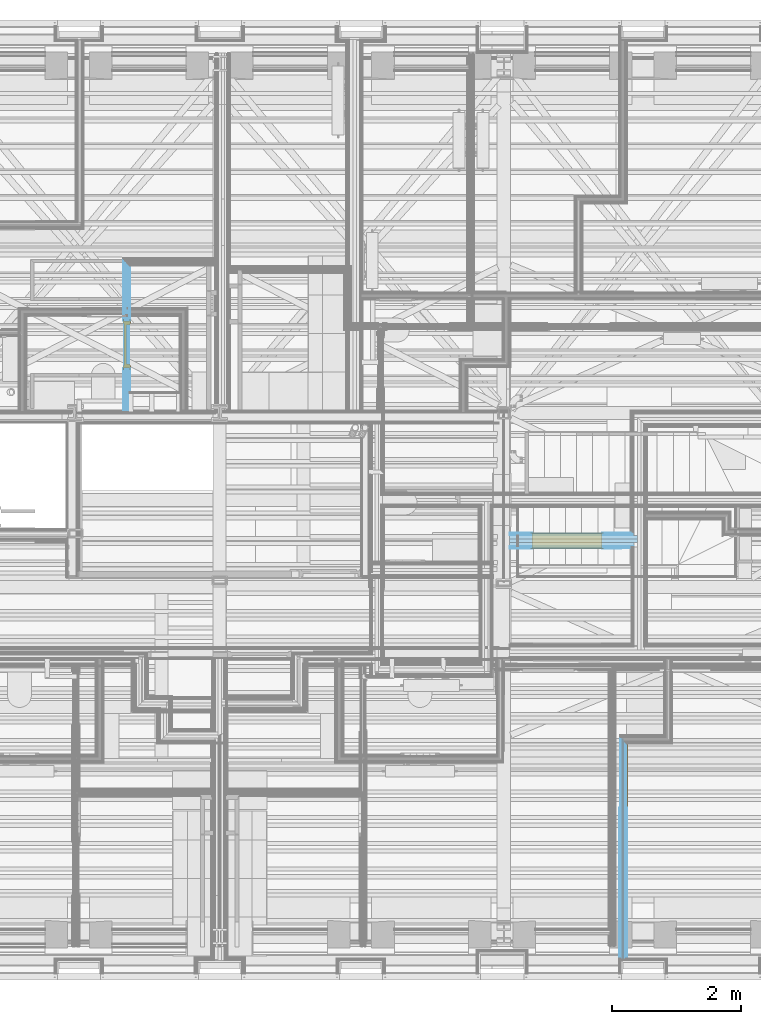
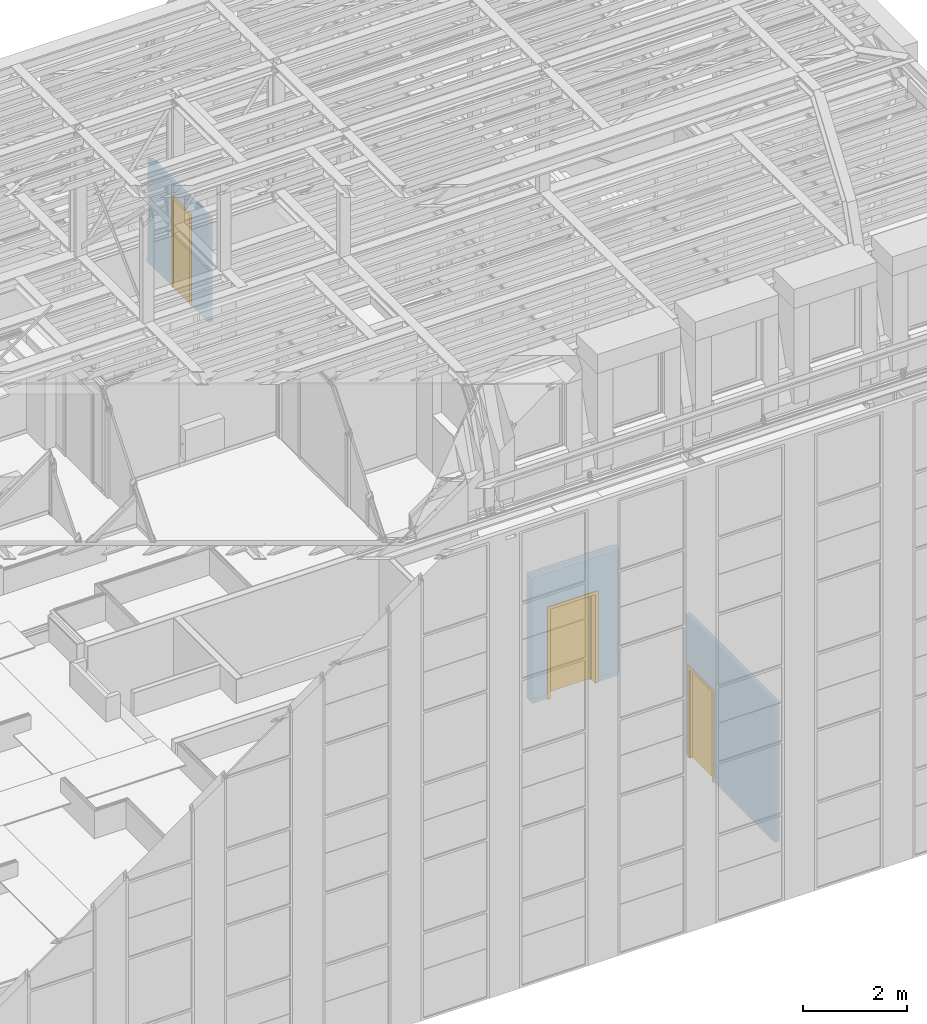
# One storey, part 104 of 183: 3 doors, 4 openings, 3 elements without a shape of their own, plus 23 elements that do not belong to this part.
"""IFC2X3 building model written with IfcOpenShell, lengths in metres."""

from ifc_helpers import new_model, entity, si_unit, converted_unit, derived_unit, money_unit, direction, frame, frame_2d, origin_with_axes, place, context, subcontext, project, spatial, polyline, rectangle, outline, extrude, faceted_brep, material, type_object, element, fill, aggregate, save


model = new_model("IFC2X3")

# Units and contexts
model_context = context("Model", 3, precision=1e-05, world=origin_with_axes(), true_north=direction((0.0, 1.0)))
body_context = subcontext(model_context, "Body", "Model", "MODEL_VIEW", scale=1.0)
ifc_project = project(units=[si_unit("LENGTHUNIT", "METRE"), si_unit("AREAUNIT", "SQUARE_METRE"), si_unit("VOLUMEUNIT", "CUBIC_METRE"), si_unit("ABSORBEDDOSEUNIT", "GRAY"), si_unit("AMOUNTOFSUBSTANCEUNIT", "MOLE"), si_unit("DOSEEQUIVALENTUNIT", "SIEVERT"), si_unit("ELECTRICCAPACITANCEUNIT", "FARAD"), si_unit("ELECTRICCHARGEUNIT", "COULOMB"), si_unit("ELECTRICCONDUCTANCEUNIT", "SIEMENS"), si_unit("ELECTRICCURRENTUNIT", "AMPERE"), si_unit("ELECTRICRESISTANCEUNIT", "OHM"), si_unit("ELECTRICVOLTAGEUNIT", "VOLT"), si_unit("ENERGYUNIT", "JOULE"), si_unit("FORCEUNIT", "NEWTON"), si_unit("FREQUENCYUNIT", "HERTZ"), si_unit("ILLUMINANCEUNIT", "LUX"), si_unit("INDUCTANCEUNIT", "HENRY"), si_unit("LUMINOUSFLUXUNIT", "LUMEN"), si_unit("LUMINOUSINTENSITYUNIT", "CANDELA"), si_unit("MAGNETICFLUXDENSITYUNIT", "TESLA"), si_unit("MAGNETICFLUXUNIT", "WEBER"), si_unit("MASSUNIT", "GRAM"), converted_unit("PLANEANGLEUNIT", "degree", entity("IfcReal", 0.0174532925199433), si_unit("PLANEANGLEUNIT", "RADIAN"), dimensions=[0, 0, 0, 0, 0, 0, 0]), si_unit("POWERUNIT", "WATT"), si_unit("PRESSUREUNIT", "PASCAL"), si_unit("RADIOACTIVITYUNIT", "BECQUEREL"), si_unit("SOLIDANGLEUNIT", "STERADIAN"), si_unit("THERMODYNAMICTEMPERATUREUNIT", "KELVIN"), si_unit("TIMEUNIT", "SECOND"), derived_unit("ACCELERATIONUNIT", [(si_unit("LENGTHUNIT", "METRE"), 1), (si_unit("TIMEUNIT", "SECOND"), -2)]), derived_unit("ANGULARVELOCITYUNIT", [(converted_unit("PLANEANGLEUNIT", "degree", entity("IfcReal", 0.0174532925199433), si_unit("PLANEANGLEUNIT", "RADIAN"), dimensions=[0, 0, 0, 0, 0, 0, 0]), 1), (si_unit("TIMEUNIT", "SECOND"), -1)]), derived_unit("CURVATUREUNIT", [(converted_unit("PLANEANGLEUNIT", "degree", entity("IfcReal", 0.0174532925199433), si_unit("PLANEANGLEUNIT", "RADIAN"), dimensions=[0, 0, 0, 0, 0, 0, 0]), 1), (si_unit("LENGTHUNIT", "METRE"), -1)]), derived_unit("DYNAMICVISCOSITYUNIT", [(si_unit("PRESSUREUNIT", "PASCAL"), 1), (si_unit("TIMEUNIT", "SECOND"), 1)]), derived_unit("HEATFLUXDENSITYUNIT", [(si_unit("POWERUNIT", "WATT"), 1), (si_unit("LENGTHUNIT", "METRE"), -2)]), derived_unit("HEATINGVALUEUNIT", [(si_unit("ENERGYUNIT", "JOULE"), 1), (si_unit("MASSUNIT", "GRAM"), -1)]), derived_unit("INTEGERCOUNTRATEUNIT", [(si_unit("TIMEUNIT", "SECOND"), -1)]), derived_unit("IONCONCENTRATIONUNIT", [(si_unit("MASSUNIT", "GRAM"), 1), (si_unit("VOLUMEUNIT", "CUBIC_METRE"), -1)]), derived_unit("ISOTHERMALMOISTURECAPACITYUNIT", [(si_unit("VOLUMEUNIT", "CUBIC_METRE"), 1), (si_unit("MASSUNIT", "GRAM"), -1)]), derived_unit("KINEMATICVISCOSITYUNIT", [(si_unit("AREAUNIT", "SQUARE_METRE"), 1), (si_unit("TIMEUNIT", "SECOND"), -1)]), derived_unit("LINEARFORCEUNIT", [(si_unit("FORCEUNIT", "NEWTON"), 1), (si_unit("LENGTHUNIT", "METRE"), -1)]), derived_unit("LINEARMOMENTUNIT", [(si_unit("FORCEUNIT", "NEWTON"), 1), (si_unit("LENGTHUNIT", "METRE"), -1)]), derived_unit("LINEARSTIFFNESSUNIT", [(si_unit("FORCEUNIT", "NEWTON"), 1), (si_unit("LENGTHUNIT", "METRE"), -1)]), derived_unit("LINEARVELOCITYUNIT", [(si_unit("LENGTHUNIT", "METRE"), 1), (si_unit("TIMEUNIT", "SECOND"), -1)]), derived_unit("LUMINOUSINTENSITYDISTRIBUTIONUNIT", [(si_unit("LUMINOUSINTENSITYUNIT", "CANDELA"), 1), (si_unit("LUMINOUSFLUXUNIT", "LUMEN"), -1)]), derived_unit("MASSDENSITYUNIT", [(si_unit("MASSUNIT", "GRAM"), 1), (si_unit("VOLUMEUNIT", "CUBIC_METRE"), -1)]), derived_unit("MASSFLOWRATEUNIT", [(si_unit("MASSUNIT", "GRAM"), 1), (si_unit("TIMEUNIT", "SECOND"), -1)]), derived_unit("MASSPERLENGTHUNIT", [(si_unit("MASSUNIT", "GRAM"), 1), (si_unit("LENGTHUNIT", "METRE"), -1)]), derived_unit("MODULUSOFELASTICITYUNIT", [(si_unit("FORCEUNIT", "NEWTON"), 1), (si_unit("AREAUNIT", "SQUARE_METRE"), -1)]), derived_unit("MODULUSOFLINEARSUBGRADEREACTIONUNIT", [(si_unit("FORCEUNIT", "NEWTON"), 1), (si_unit("LENGTHUNIT", "METRE"), -2)]), derived_unit("MODULUSOFROTATIONALSUBGRADEREACTIONUNIT", [(si_unit("FORCEUNIT", "NEWTON"), 1), (si_unit("LENGTHUNIT", "METRE"), 1)]), derived_unit("MODULUSOFSUBGRADEREACTIONUNIT", [(si_unit("FORCEUNIT", "NEWTON"), 1), (si_unit("VOLUMEUNIT", "CUBIC_METRE"), -1)]), derived_unit("MOISTUREDIFFUSIVITYUNIT", [(si_unit("VOLUMEUNIT", "CUBIC_METRE"), 1), (si_unit("TIMEUNIT", "SECOND"), -1)]), derived_unit("MOLECULARWEIGHTUNIT", [(si_unit("MASSUNIT", "GRAM"), 1), (si_unit("AMOUNTOFSUBSTANCEUNIT", "MOLE"), -1)]), derived_unit("PLANARFORCEUNIT", [(si_unit("FORCEUNIT", "NEWTON"), 1), (si_unit("LENGTHUNIT", "METRE"), -2)]), derived_unit("ROTATIONALFREQUENCYUNIT", [(si_unit("TIMEUNIT", "SECOND"), -1)]), derived_unit("ROTATIONALMASSUNIT", [(si_unit("MASSUNIT", "GRAM"), 1), (si_unit("LENGTHUNIT", "METRE"), 2)]), derived_unit("ROTATIONALSTIFFNESSUNIT", [(si_unit("FORCEUNIT", "NEWTON"), 1), (si_unit("LENGTHUNIT", "METRE"), 1), (converted_unit("PLANEANGLEUNIT", "degree", entity("IfcReal", 0.0174532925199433), si_unit("PLANEANGLEUNIT", "RADIAN"), dimensions=[0, 0, 0, 0, 0, 0, 0]), -1)]), derived_unit("SECTIONAREAINTEGRALUNIT", [(si_unit("LENGTHUNIT", "METRE"), 5)]), derived_unit("SECTIONMODULUSUNIT", [(si_unit("LENGTHUNIT", "METRE"), 3)]), derived_unit("SHEARMODULUSUNIT", [(si_unit("FORCEUNIT", "NEWTON"), 1), (si_unit("AREAUNIT", "SQUARE_METRE"), -1)]), derived_unit("SOUNDPOWERUNIT", [(si_unit("ENERGYUNIT", "JOULE"), 1), (si_unit("TIMEUNIT", "SECOND"), -1)]), derived_unit("SPECIFICHEATCAPACITYUNIT", [(si_unit("FORCEUNIT", "NEWTON"), 1), (si_unit("MASSUNIT", "GRAM"), -1), (si_unit("THERMODYNAMICTEMPERATUREUNIT", "KELVIN"), -1)]), derived_unit("TEMPERATUREGRADIENTUNIT", [(si_unit("THERMODYNAMICTEMPERATUREUNIT", "KELVIN"), 1), (si_unit("LENGTHUNIT", "METRE"), -1)]), derived_unit("THERMALADMITTANCEUNIT", [(si_unit("POWERUNIT", "WATT"), 1), (si_unit("AREAUNIT", "SQUARE_METRE"), -1), (si_unit("THERMODYNAMICTEMPERATUREUNIT", "KELVIN"), -1)]), derived_unit("THERMALCONDUCTANCEUNIT", [(si_unit("POWERUNIT", "WATT"), 1), (si_unit("LENGTHUNIT", "METRE"), -1), (si_unit("THERMODYNAMICTEMPERATUREUNIT", "KELVIN"), -1)]), derived_unit("THERMALEXPANSIONCOEFFICIENTUNIT", [(si_unit("THERMODYNAMICTEMPERATUREUNIT", "KELVIN"), -1)]), derived_unit("THERMALRESISTANCEUNIT", [(si_unit("AREAUNIT", "SQUARE_METRE"), 1), (si_unit("POWERUNIT", "WATT"), -1)]), derived_unit("THERMALTRANSMITTANCEUNIT", [(si_unit("POWERUNIT", "WATT"), 1), (si_unit("AREAUNIT", "SQUARE_METRE"), -1), (si_unit("THERMODYNAMICTEMPERATUREUNIT", "KELVIN"), -1)]), derived_unit("TORQUEUNIT", [(si_unit("FORCEUNIT", "NEWTON"), 1), (si_unit("LENGTHUNIT", "METRE"), 1)]), derived_unit("VAPORPERMEABILITYUNIT", [(si_unit("MASSUNIT", "GRAM"), 1), (si_unit("TIMEUNIT", "SECOND"), -1)]), derived_unit("VOLUMETRICFLOWRATEUNIT", [(si_unit("VOLUMEUNIT", "CUBIC_METRE"), 1), (si_unit("TIMEUNIT", "SECOND"), -1)]), derived_unit("WARPINGCONSTANTUNIT", [(si_unit("LENGTHUNIT", "METRE"), 6)]), derived_unit("WARPINGMOMENTUNIT", [(si_unit("FORCEUNIT", "NEWTON"), 1), (si_unit("LENGTHUNIT", "METRE"), 2)]), money_unit("GBP")], contexts=[model_context])

# Site, building, storey, space
site_placement = place(None, origin_with_axes())
site = spatial("IfcSite", under=ifc_project, at=site_placement, Name="Site", CompositionType="ELEMENT")
building_placement = place(site_placement, origin_with_axes())
building = spatial("IfcBuilding", under=site, at=building_placement, Name="Building01", CompositionType="ELEMENT")
storey_placement = place(building_placement, frame((0.0, 0.0, 5.15), z_axis=(0.0, 0.0, 1.0), x_axis=(1.0, 0.0, 0.0)))
storey = spatial("IfcBuildingStorey", under=building, at=storey_placement, Name="1F", CompositionType="ELEMENT", Elevation=5.15)
space_1_placement = place(storey_placement, frame((1.009939, 13.890379, 9.81), z_axis=(0.0, 0.0, 1.0), x_axis=(0.0, -1.0, 0.0)))
space_1 = spatial("IfcSpace", under=storey, at=space_1_placement, Name="26", CompositionType="ELEMENT", InteriorOrExteriorSpace="NOTDEFINED")

# Door
ifc_material_1 = material(Name="A_BSUK_Doors")
door_style_1 = type_object("IfcDoorStyle", Name="A-Doors-SingleFlush", ConstructionType="USERDEFINED", OperationType="SINGLE_SWING_RIGHT", ParameterTakesPrecedence=False, Sizeable=False)
wall_3_placement = place(storey_placement, frame((12.044381, 11.156849, 9.78), z_axis=(0.0, 0.0, 1.0), x_axis=(0.0, -1.0, 0.0)))
opening_4_placement = place(wall_3_placement, frame((0.926, -0.042, 0.0), z_axis=(0.0, 0.0, 1.0), x_axis=(1.0, 0.0, 0.0)))
door_1_placement = place(opening_4_placement, frame((0.692, 0.015, 0.0), z_axis=(0.0, 0.0, 1.0), x_axis=(-1.0, 0.0, 0.0)))
door_1 = element("IfcDoor", 1, at=door_1_placement, inside=space_1, type_object=door_style_1, material=ifc_material_1, Name="4.31", ObjectType="A-Doors-SingleFlush", OverallHeight=2.142, OverallWidth=0.734, context=body_context, shape_type="Brep", body=[
    faceted_brep([(0.65, -0.099, 0.0), (0.719, -0.099, 0.0), (0.719, -0.099, 2.169), (-0.069, -0.099, 2.169), (-0.069, -0.099, 0.0), (0.0, -0.099, 0.0), (0.0, -0.099, 2.1), (0.65, -0.099, 2.1), (-0.069, -0.08, 0.0), (-0.069, -0.08, 2.169), (0.719, -0.08, 2.169), (0.719, -0.08, 0.0), (0.65, 0.019, 0.0), (0.719, 0.019, 0.0), (0.719, 0.0, 0.0), (0.692, 0.0, 0.0), (0.692, -0.08, 0.0), (0.65, 0.019, 2.1), (0.0, 0.019, 2.1), (0.0, 0.019, 0.0), (-0.069, 0.019, 0.0), (-0.069, 0.019, 2.169), (0.719, 0.019, 2.169), (0.719, 0.0, 2.169), (0.692, -0.08, 2.142), (0.692, 0.0, 2.142), (-0.042, -0.08, 2.142), (-0.042, 0.0, 2.142), (-0.042, -0.08, 0.0), (-0.042, 0.0, 0.0), (-0.069, 0.0, 2.169), (-0.069, 0.0, 0.0)], [[[0, 1, 2, 3, 4, 5, 6, 7]], [[8, 4, 3, 9]], [[10, 2, 1, 11]], [[9, 3, 2, 10]], [[12, 13, 14, 15, 16, 11, 1, 0]], [[7, 17, 12, 0]], [[6, 18, 17, 7]], [[18, 19, 20, 21, 22, 13, 12, 17]], [[5, 19, 18, 6]], [[13, 22, 23, 14]], [[24, 16, 15, 25]], [[26, 24, 25, 27]], [[11, 16, 24, 26, 28, 8, 9, 10]], [[27, 29, 28, 26]], [[25, 15, 14, 23, 30, 31, 29, 27]], [[5, 4, 8, 28, 29, 31, 20, 19]], [[30, 21, 20, 31]], [[23, 22, 21, 30]]]),
    faceted_brep([(0.0, -0.09, 2.1), (0.0, -0.04, 2.1), (0.0, -0.04, 0.0), (0.0, -0.09, 0.0), (0.625, -0.09, 0.0), (0.65, -0.09, 0.0), (0.65, -0.09, 2.1), (0.025, -0.09, 0.0), (0.025, -0.09, 2.075), (0.625, -0.09, 2.075), (0.625, -0.04, 0.0), (0.65, -0.04, 0.0), (0.65, -0.04, 2.1), (0.025, -0.04, 2.075), (0.025, -0.04, 0.0), (0.625, -0.04, 2.075)], [[[0, 1, 2, 3]], [[4, 5, 6, 0, 3, 7, 8, 9]], [[10, 11, 5, 4]], [[6, 12, 1, 0]], [[5, 11, 12, 6]], [[13, 14, 2, 1, 12, 11, 10, 15]], [[7, 14, 13, 8]], [[7, 3, 2, 14]], [[9, 15, 10, 4]], [[8, 13, 15, 9]]]),
    faceted_brep([(0.65, -0.04, 0.0), (0.65, 0.0, 0.0), (0.65, 0.0, 2.1), (0.65, -0.04, 2.1), (0.0, -0.04, 2.1), (0.0, 0.0, 2.1), (0.0, 0.0, 0.0), (0.0, -0.04, 0.0)], [[[0, 1, 2, 3]], [[4, 5, 6, 7]], [[7, 6, 1, 0]], [[3, 4, 7, 0]], [[3, 2, 5, 4]], [[1, 6, 5, 2]]]),
])

# Space
space_2_placement = place(storey_placement, frame((15.83, 8.82, 0.017975), z_axis=(0.0, 0.0, 1.0), x_axis=(0.0, -1.0, 0.0)))
space_2 = spatial("IfcSpace", under=storey, at=space_2_placement, Name="02", CompositionType="ELEMENT", InteriorOrExteriorSpace="NOTDEFINED")

# Door
door_style_2 = type_object("IfcDoorStyle", Name="A-Doors-SingleFlush", ConstructionType="USERDEFINED", OperationType="SINGLE_SWING_RIGHT", ParameterTakesPrecedence=False, Sizeable=False)
wall_2_placement = place(storey_placement, frame((18.0, 6.793, 0.0), z_axis=(0.0, 0.0, 1.0), x_axis=(1.0, 0.0, 0.0)))
opening_3_placement = place(wall_2_placement, frame((0.353, -0.103, -0.03), z_axis=(0.0, 0.0, 1.0), x_axis=(1.0, 0.0, 0.0)))
door_2_placement = place(opening_3_placement, frame((0.039, 0.24, 0.03), z_axis=(0.0, 0.0, 1.0), x_axis=(1.0, 0.0, 0.0)))
door_2 = element("IfcDoor", 2, at=door_2_placement, inside=space_2, type_object=door_style_2, material=ifc_material_1, Name="1.09", ObjectType="A-Doors-SingleFlush", OverallHeight=2.172, OverallWidth=1.08700000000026, context=body_context, shape_type="Brep", body=[
    faceted_brep([(1.0, -0.244, 0.0), (1.069, -0.244, 0.0), (1.069, -0.244, 2.169), (-0.069, -0.244, 2.169), (-0.069, -0.244, 0.0), (0.0, -0.244, 0.0), (0.0, -0.244, 2.1), (1.0, -0.244, 2.1), (-0.069, -0.225, 0.0), (-0.069, -0.225, 2.169), (1.069, -0.225, 2.169), (1.069, -0.225, 0.0), (1.0, 0.019, 0.0), (1.069, 0.019, 0.0), (1.069, 0.0, 0.0), (1.042, 0.0, 0.0), (1.042, -0.225, 0.0), (1.0, 0.019, 2.1), (0.0, 0.019, 2.1), (0.0, 0.019, 0.0), (-0.069, 0.019, 0.0), (-0.069, 0.019, 2.169), (1.069, 0.019, 2.169), (1.069, 0.0, 2.169), (1.042, -0.225, 2.142), (1.042, 0.0, 2.142), (-0.042, -0.225, 2.142), (-0.042, 0.0, 2.142), (-0.042, -0.225, 0.0), (-0.042, 0.0, 0.0), (-0.069, 0.0, 2.169), (-0.069, 0.0, 0.0)], [[[0, 1, 2, 3, 4, 5, 6, 7]], [[8, 4, 3, 9]], [[10, 2, 1, 11]], [[9, 3, 2, 10]], [[12, 13, 14, 15, 16, 11, 1, 0]], [[7, 17, 12, 0]], [[6, 18, 17, 7]], [[18, 19, 20, 21, 22, 13, 12, 17]], [[5, 19, 18, 6]], [[13, 22, 23, 14]], [[24, 16, 15, 25]], [[26, 24, 25, 27]], [[11, 16, 24, 26, 28, 8, 9, 10]], [[27, 29, 28, 26]], [[25, 15, 14, 23, 30, 31, 29, 27]], [[5, 4, 8, 28, 29, 31, 20, 19]], [[30, 21, 20, 31]], [[23, 22, 21, 30]]]),
    faceted_brep([(0.0, -0.09, 2.1), (0.0, -0.04, 2.1), (0.0, -0.04, 0.0), (0.0, -0.09, 0.0), (0.975, -0.09, 0.0), (1.0, -0.09, 0.0), (1.0, -0.09, 2.1), (0.025, -0.09, 0.0), (0.025, -0.09, 2.075), (0.975, -0.09, 2.075), (0.975, -0.04, 0.0), (1.0, -0.04, 0.0), (1.0, -0.04, 2.1), (0.025, -0.04, 2.075), (0.025, -0.04, 0.0), (0.975, -0.04, 2.075)], [[[0, 1, 2, 3]], [[4, 5, 6, 0, 3, 7, 8, 9]], [[10, 11, 5, 4]], [[6, 12, 1, 0]], [[5, 11, 12, 6]], [[13, 14, 2, 1, 12, 11, 10, 15]], [[7, 14, 13, 8]], [[7, 3, 2, 14]], [[9, 15, 10, 4]], [[8, 13, 15, 9]]]),
    faceted_brep([(1.0, -0.04, 0.0), (1.0, 0.0, 0.0), (1.0, 0.0, 2.1), (1.0, -0.04, 2.1), (0.0, -0.04, 2.1), (0.0, 0.0, 2.1), (0.0, 0.0, 0.0), (0.0, -0.04, 0.0)], [[[0, 1, 2, 3]], [[4, 5, 6, 7]], [[7, 6, 1, 0]], [[3, 4, 7, 0]], [[3, 2, 5, 4]], [[1, 6, 5, 2]]]),
])

# Space
space_3_placement = place(storey_placement, frame((14.85, 4.98, 0.017975), z_axis=(0.0, 0.0, 1.0), x_axis=(0.0, -1.0, 0.0)))
space_3 = spatial("IfcSpace", under=storey, at=space_3_placement, Name="04", CompositionType="ELEMENT", InteriorOrExteriorSpace="NOTDEFINED")

# Door
door_style_3 = type_object("IfcDoorStyle", Name="A-Doors-SingleFlush", ConstructionType="USERDEFINED", OperationType="SINGLE_SWING_LEFT", ParameterTakesPrecedence=False, Sizeable=False)
wall_1_placement = place(storey_placement, frame((19.75, 3.745, 0.0), z_axis=(0.0, 0.0, 1.0), x_axis=(0.0, -1.0, 0.0)))
opening_2_placement = place(wall_1_placement, frame((0.099, -0.05, 0.0), z_axis=(0.0, 0.0, 1.0), x_axis=(1.0, 0.0, 0.0)))
door_3_placement = place(opening_2_placement, frame((0.03, 0.11, 0.0), z_axis=(0.0, 0.0, 1.0), x_axis=(1.0, 0.0, 0.0)))
door_3 = element("IfcDoor", 3, at=door_3_placement, inside=space_3, type_object=door_style_3, material=ifc_material_1, Name="1.14", ObjectType="A-Doors-SingleFlush", OverallHeight=2.157, OverallWidth=1.56178056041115, context=body_context, shape_type="Brep", body=[
    faceted_brep([(0.0, -0.114, 2.1), (0.9, -0.114, 2.1), (0.9, -0.114, 0.0), (0.969, -0.114, 0.0), (0.969, -0.114, 2.169), (-0.069, -0.114, 2.169), (-0.069, -0.114, 0.0), (0.0, -0.114, 0.0), (0.969, -0.095, 2.169), (0.969, -0.095, 0.0), (-0.069, -0.095, 0.0), (-0.069, -0.095, 2.169), (-0.042, -0.095, 0.0), (-0.042, 0.0, 0.0), (-0.069, 0.0, 0.0), (-0.069, 0.019, 0.0), (0.0, 0.019, 0.0), (0.0, 0.019, 2.1), (0.9, 0.019, 2.1), (-0.069, 0.019, 2.169), (0.969, 0.019, 2.169), (0.969, 0.019, 0.0), (0.9, 0.019, 0.0), (-0.069, 0.0, 2.169), (-0.042, 0.0, 2.142), (-0.042, -0.095, 2.142), (0.942, 0.0, 2.142), (0.942, -0.095, 2.142), (0.942, -0.095, 0.0), (0.942, 0.0, 0.0), (0.969, 0.0, 0.0), (0.969, 0.0, 2.169)], [[[0, 1, 2, 3, 4, 5, 6, 7]], [[8, 4, 3, 9]], [[10, 6, 5, 11]], [[11, 5, 4, 8]], [[7, 6, 10, 12, 13, 14, 15, 16]], [[7, 16, 17, 0]], [[0, 17, 18, 1]], [[17, 16, 15, 19, 20, 21, 22, 18]], [[1, 18, 22, 2]], [[14, 23, 19, 15]], [[24, 13, 12, 25]], [[26, 24, 25, 27]], [[11, 8, 9, 28, 27, 25, 12, 10]], [[27, 28, 29, 26]], [[26, 29, 30, 31, 23, 14, 13, 24]], [[22, 21, 30, 29, 28, 9, 3, 2]], [[30, 21, 20, 31]], [[31, 20, 19, 23]]]),
    faceted_brep([(0.9, -0.09, 0.0), (0.9, -0.04, 0.0), (0.9, -0.04, 2.1), (0.9, -0.09, 2.1), (0.025, -0.09, 2.075), (0.875, -0.09, 2.075), (0.875, -0.09, 0.0), (0.0, -0.09, 2.1), (0.0, -0.09, 0.0), (0.025, -0.09, 0.0), (0.0, -0.04, 0.0), (0.025, -0.04, 0.0), (0.0, -0.04, 2.1), (0.025, -0.04, 2.075), (0.875, -0.04, 0.0), (0.875, -0.04, 2.075)], [[[0, 1, 2, 3]], [[4, 5, 6, 0, 3, 7, 8, 9]], [[9, 8, 10, 11]], [[3, 2, 12, 7]], [[7, 12, 10, 8]], [[13, 11, 10, 12, 2, 1, 14, 15]], [[5, 15, 14, 6]], [[14, 1, 0, 6]], [[9, 11, 13, 4]], [[4, 13, 15, 5]]]),
    faceted_brep([(0.0, -0.04, 2.1), (0.0, 0.0, 2.1), (0.0, 0.0, 0.0), (0.0, -0.04, 0.0), (0.9, -0.04, 0.0), (0.9, 0.0, 0.0), (0.9, 0.0, 2.1), (0.9, -0.04, 2.1)], [[[0, 1, 2, 3]], [[4, 5, 6, 7]], [[3, 2, 5, 4]], [[3, 4, 7, 0]], [[7, 6, 1, 0]], [[1, 6, 5, 2]]]),
])

# Wall, openings
wall_type_1 = type_object("IfcWallType", Name="SHE_A-Walls_Type05a_Partition_95mm_tall", PredefinedType="NOTDEFINED")
wall_1 = element("IfcWall", 4, at=wall_1_placement, inside=storey, type_object=wall_type_1, Name="5A", ObjectType="SHE_A-Walls_Type05a_Partition_95mm_tall")
opening_1_placement = place(wall_1_placement, frame((0.087, -0.035, 0.0), z_axis=(0.0, 0.0, 1.0), x_axis=(1.0, 0.0, 0.0)))
element("IfcOpeningElement", 5, at=opening_1_placement, cuts=wall_1, Name="Opening", ObjectType="Recess", context=body_context, shape_type="SweptSolid", body=[
    extrude(rectangle(XDim=2.142, YDim=0.984, at=frame_2d((-0.492, 1.071), x_axis=(0.0, 1.0))), frame((0.0, 0.0, 0.0), z_axis=(0.0, 1.0, 0.0), x_axis=(-1.0, 0.0, 0.0)), (0.0, 0.0, 1.0), 0.035),
])
opening_2 = element("IfcOpeningElement", 6, at=opening_2_placement, cuts=wall_1, Name="Opening", ObjectType="Opening", context=body_context, shape_type="SweptSolid", body=[
    extrude(rectangle(XDim=0.9, YDim=2.127, at=frame_2d((-0.45, 1.0635), x_axis=(-1.0, 0.0))), frame((0.0, 0.0, 0.0), z_axis=(0.0, 1.0, 0.0), x_axis=(-1.0, 0.0, 0.0)), (0.0, 0.0, 1.0), 0.125),
    extrude(rectangle(XDim=0.9, YDim=2.142, at=frame_2d((-0.45, 1.056), x_axis=(-1.0, 0.0))), frame((0.0, 0.015, 0.0), z_axis=(0.0, 1.0, 0.0), x_axis=(-1.0, 0.0, 0.0)), (0.0, 0.0, 1.0), 0.012),
    extrude(rectangle(XDim=2.142, YDim=0.984, at=frame_2d((-0.48, 1.071), x_axis=(0.0, -1.0))), frame((0.0, 0.0, 0.0), z_axis=(0.0, 1.0, 0.0), x_axis=(-1.0, 0.0, 0.0)), (0.0, 0.0, 1.0), 0.015),
    extrude(rectangle(XDim=0.9, YDim=2.142, at=frame_2d((-0.45, 1.056), x_axis=(-1.0, 0.0))), frame((0.0, 0.027, 0.0), z_axis=(0.0, 1.0, 0.0), x_axis=(-1.0, 0.0, 0.0)), (0.0, 0.0, 1.0), 0.023),
    extrude(outline(polyline([(0.012, 2.127), (0.012, 2.142), (-0.972, 2.142), (-0.972, 0.0), (-0.494219, 0.0), (-0.494219, -0.015), (0.589781, -0.015), (0.589781, 2.127), (0.012, 2.127)])), frame((0.0, 0.05, 0.0), z_axis=(0.0, 1.0, 0.0), x_axis=(-1.0, 0.0, 0.0)), (0.0, 0.0, 1.0), 0.025),
    extrude(outline(polyline([(0.012, 2.127), (0.012, 2.142), (-0.972, 2.142), (-0.972, 0.0), (-0.494219, 0.0), (-0.494219, -0.015), (0.589781, -0.015), (0.589781, 2.127), (0.012, 2.127)])), frame((0.0, 0.075, 0.0), z_axis=(0.0, 1.0, 0.0), x_axis=(-1.0, 0.0, 0.0)), (0.0, 0.0, 1.0), 0.023),
    extrude(outline(polyline([(-0.972, 2.142), (-0.972, 0.0), (-0.9, 0.0), (-0.9, -0.015), (0.0, -0.015), (0.0, 0.0), (0.589781, 0.0), (0.589781, 2.142), (-0.972, 2.142)])), frame((0.0, 0.098, 0.0), z_axis=(0.0, 1.0, 0.0), x_axis=(-1.0, 0.0, 0.0)), (0.0, 0.0, 1.0), 0.012),
    extrude(rectangle(XDim=2.142, YDim=0.984, at=frame_2d((-0.48, 1.071), x_axis=(0.0, -1.0))), frame((0.0, 0.11, 0.0), z_axis=(0.0, 1.0, 0.0), x_axis=(-1.0, 0.0, 0.0)), (0.0, 0.0, 1.0), 0.015),
])

fill(opening_2, door_3)

# Building element part
ifc_material_2 = material(Name="A_BSUK_Walls_Timber")
placement_1 = place(wall_1_placement, origin_with_axes())
building_element_part_1 = element("IfcBuildingElementPart", 7, at=placement_1, material=ifc_material_2, Name="1", context=body_context, shape_type="SweptSolid", body=[
    extrude(rectangle(XDim=2.344, YDim=0.015, at=frame_2d((2.24, -0.0425), x_axis=(-1.0, 0.0))), frame((0.0, 0.0, 0.015), z_axis=(0.0, 0.0, 1.0), x_axis=(1.0, 0.0, 0.0)), (0.0, 0.0, 1.0), 0.1),
])

ifc_material_3 = material(Name="A_BSUK_WallInternal_Finishes_Plasterboard")
building_element_part_2 = element("IfcBuildingElementPart", 8, at=placement_1, material=ifc_material_3, Name="2", context=body_context, shape_type="SweptSolid", body=[
    extrude(outline(polyline([(3.427, -0.023), (-0.023, -0.023), (-0.035, -0.035), (3.427, -0.035), (3.427, -0.023)])), origin_with_axes(), (0.0, 0.0, 1.0), 3.32),
])

ifc_material_4 = material(Name="Air Cavity")
building_element_part_3 = element("IfcBuildingElementPart", 9, at=placement_1, material=ifc_material_4, Name="3", context=body_context, shape_type="SweptSolid", body=[
    extrude(outline(polyline([(3.427, 0.0), (0.0, 0.0), (-0.023, -0.023), (3.427, -0.023), (3.427, 0.0)])), origin_with_axes(), (0.0, 0.0, 1.0), 3.32),
])

ifc_material_5 = material(Name="A_BSUK_Insulation")
building_element_part_4 = element("IfcBuildingElementPart", 10, at=placement_1, material=ifc_material_5, Name="4", context=body_context, shape_type="SweptSolid", body=[
    extrude(rectangle(XDim=3.427, YDim=0.025, at=frame_2d((1.7135, 0.0125), x_axis=(-1.0, 0.0))), origin_with_axes(), (0.0, 0.0, 1.0), 3.32),
])

building_element_part_5 = element("IfcBuildingElementPart", 11, at=placement_1, material=ifc_material_4, Name="5", context=body_context, shape_type="SweptSolid", body=[
    extrude(rectangle(XDim=3.427, YDim=0.023, at=frame_2d((1.7135, 0.0365), x_axis=(-1.0, 0.0))), origin_with_axes(), (0.0, 0.0, 1.0), 3.32),
])

building_element_part_6 = element("IfcBuildingElementPart", 12, at=placement_1, material=ifc_material_3, Name="6", context=body_context, shape_type="SweptSolid", body=[
    extrude(outline(polyline([(3.427, 0.06), (0.06, 0.06), (0.048, 0.048), (3.427, 0.048), (3.427, 0.06)])), origin_with_axes(), (0.0, 0.0, 1.0), 3.32),
])

building_element_part_7 = element("IfcBuildingElementPart", 13, at=placement_1, material=ifc_material_2, Name="7", context=body_context, shape_type="SweptSolid", body=[
    extrude(rectangle(XDim=2.344, YDim=0.015, at=frame_2d((2.24, 0.0675), x_axis=(-1.0, 0.0))), frame((0.0, 0.0, 0.015), z_axis=(0.0, 0.0, 1.0), x_axis=(1.0, 0.0, 0.0)), (0.0, 0.0, 1.0), 0.1),
])

aggregate(wall_1, [building_element_part_1, building_element_part_2, building_element_part_3, building_element_part_4, building_element_part_5, building_element_part_6, building_element_part_7])

# Wall, opening
wall_type_2 = type_object("IfcWallType", Name="SHE_A-Walls_Type01c_Partywall_225mm_twin_tall", PredefinedType="NOTDEFINED")
wall_2 = element("IfcWall", 14, at=wall_2_placement, inside=storey, type_object=wall_type_2, Name="1C", ObjectType="SHE_A-Walls_Type01c_Partywall_225mm_twin_tall")
opening_3 = element("IfcOpeningElement", 15, at=opening_3_placement, cuts=wall_2, Name="Opening", ObjectType="Opening", context=body_context, shape_type="SweptSolid", body=[
    extrude(rectangle(XDim=2.142, YDim=1.081, at=frame_2d((-0.5405, 1.071), x_axis=(0.0, -1.0))), frame((0.0, 0.0, 0.0), z_axis=(0.0, 1.0, 0.0), x_axis=(-1.0, 0.0, 0.0)), (0.0, 0.0, 1.0), 0.255),
    extrude(rectangle(XDim=1.084, YDim=2.172, at=frame_2d((-0.539, 1.086), x_axis=(1.0, 0.0))), frame((0.0, 0.015, 0.0), z_axis=(0.0, 1.0, 0.0), x_axis=(-1.0, 0.0, 0.0)), (0.0, 0.0, 1.0), 0.015),
    extrude(rectangle(XDim=2.142, YDim=1.084, at=frame_2d((-0.542, 1.071), x_axis=(0.0, -1.0))), frame((0.0, 0.0, 0.0), z_axis=(0.0, 1.0, 0.0), x_axis=(-1.0, 0.0, 0.0)), (0.0, 0.0, 1.0), 0.015),
    extrude(outline(polyline([(0.0, 0.03), (0.003, 0.03), (0.003, 2.172), (-1.081, 2.172), (-1.081, 2.142), (-1.084, 2.142), (-1.084, 0.0), (0.0, 0.0), (0.0, 0.03)])), frame((0.0, 0.03, 0.0), z_axis=(0.0, 1.0, 0.0), x_axis=(-1.0, 0.0, 0.0)), (0.0, 0.0, 1.0), 0.015),
    extrude(outline(polyline([(0.0, 0.03), (0.003, 0.03), (0.003, 2.172), (-1.081, 2.172), (-1.081, 2.142), (-1.084, 2.142), (-1.084, 0.0), (0.0, 0.0), (0.0, 0.03)])), frame((0.0, 0.045, 0.0), z_axis=(0.0, 1.0, 0.0), x_axis=(-1.0, 0.0, 0.0)), (0.0, 0.0, 1.0), 0.058),
    extrude(outline(polyline([(0.0, 0.03), (0.003, 0.03), (0.003, 2.172), (-1.081, 2.172), (-1.081, 2.142), (-1.084, 2.142), (-1.084, 0.0), (0.0, 0.0), (0.0, 0.03)])), frame((0.0, 0.103, 0.0), z_axis=(0.0, 1.0, 0.0), x_axis=(-1.0, 0.0, 0.0)), (0.0, 0.0, 1.0), 0.05),
    extrude(outline(polyline([(0.0, 0.03), (0.003, 0.03), (0.003, 2.172), (-1.081, 2.172), (-1.081, 2.142), (-1.084, 2.142), (-1.084, 0.0), (0.0, 0.0), (0.0, 0.03)])), frame((0.0, 0.153, 0.0), z_axis=(0.0, 1.0, 0.0), x_axis=(-1.0, 0.0, 0.0)), (0.0, 0.0, 1.0), 0.057),
    extrude(outline(polyline([(0.0, 0.03), (0.003, 0.03), (0.003, 2.172), (-1.081, 2.172), (-1.081, 2.142), (-1.084, 2.142), (-1.084, 0.0), (0.0, 0.0), (0.0, 0.03)])), frame((0.0, 0.21, 0.0), z_axis=(0.0, 1.0, 0.0), x_axis=(-1.0, 0.0, 0.0)), (0.0, 0.0, 1.0), 0.015),
    extrude(rectangle(XDim=1.084, YDim=2.172, at=frame_2d((-0.539, 1.086), x_axis=(1.0, 0.0))), frame((0.0, 0.225, 0.0), z_axis=(0.0, 1.0, 0.0), x_axis=(-1.0, 0.0, 0.0)), (0.0, 0.0, 1.0), 0.015),
    extrude(outline(polyline([(0.0, 0.03), (0.003, 0.03), (0.003, 2.172), (-1.081, 2.172), (-1.081, 2.142), (-1.084, 2.142), (-1.084, 0.0), (0.0, 0.0), (0.0, 0.03)])), frame((0.0, 0.24, 0.0), z_axis=(0.0, 1.0, 0.0), x_axis=(-1.0, 0.0, 0.0)), (0.0, 0.0, 1.0), 0.015),
])

fill(opening_3, door_2)

# Building element part
placement_2 = place(wall_2_placement, origin_with_axes())
building_element_part_8 = element("IfcBuildingElementPart", 16, at=placement_2, material=ifc_material_2, Name="1", context=body_context, shape_type="SweptSolid", body=[
    extrude(rectangle(XDim=1.730969, YDim=0.015, at=frame_2d((0.865484, -0.0955), x_axis=(-1.0, 0.0))), frame((0.0, 0.0, 0.015), z_axis=(0.0, 0.0, 1.0), x_axis=(1.0, 0.0, 0.0)), (0.0, 0.0, 1.0), 0.1),
])

building_element_part_9 = element("IfcBuildingElementPart", 17, at=placement_2, material=ifc_material_3, Name="2", context=body_context, shape_type="SweptSolid", body=[
    extrude(rectangle(XDim=1.897661, YDim=0.015, at=frame_2d((0.948831, -0.0805), x_axis=(-1.0, 0.0))), origin_with_axes(), (0.0, 0.0, 1.0), 2.95),
])

building_element_part_10 = element("IfcBuildingElementPart", 18, at=placement_2, material=ifc_material_3, Name="3", context=body_context, shape_type="SweptSolid", body=[
    extrude(rectangle(XDim=1.927661, YDim=0.015, at=frame_2d((0.963831, -0.0655), x_axis=(-1.0, 0.0))), origin_with_axes(), (0.0, 0.0, 1.0), 2.95),
])

building_element_part_11 = element("IfcBuildingElementPart", 19, at=placement_2, material=ifc_material_4, Name="4", context=body_context, shape_type="SweptSolid", body=[
    extrude(rectangle(XDim=1.927661, YDim=0.058, at=frame_2d((0.963831, -0.029), x_axis=(-1.0, 0.0))), origin_with_axes(), (0.0, 0.0, 1.0), 2.95),
])

building_element_part_12 = element("IfcBuildingElementPart", 20, at=placement_2, material=ifc_material_5, Name="5", context=body_context, shape_type="SweptSolid", body=[
    extrude(rectangle(XDim=1.985661, YDim=0.05, at=frame_2d((0.992831, 0.025), x_axis=(-1.0, 0.0))), origin_with_axes(), (0.0, 0.0, 1.0), 2.95),
])

building_element_part_13 = element("IfcBuildingElementPart", 21, at=placement_2, material=ifc_material_4, Name="6", context=body_context, shape_type="SweptSolid", body=[
    extrude(rectangle(XDim=1.985661, YDim=0.057, at=frame_2d((0.992831, 0.0785), x_axis=(-1.0, 0.0))), origin_with_axes(), (0.0, 0.0, 1.0), 2.95),
])

building_element_part_14 = element("IfcBuildingElementPart", 22, at=placement_2, material=ifc_material_3, Name="7", context=body_context, shape_type="SweptSolid", body=[
    extrude(rectangle(XDim=1.912661, YDim=0.015, at=frame_2d((0.956331, 0.1145), x_axis=(-1.0, 0.0))), origin_with_axes(), (0.0, 0.0, 1.0), 2.95),
])

building_element_part_15 = element("IfcBuildingElementPart", 23, at=placement_2, material=ifc_material_3, Name="8", context=body_context, shape_type="SweptSolid", body=[
    extrude(rectangle(XDim=1.897661, YDim=0.015, at=frame_2d((0.948831, 0.1295), x_axis=(-1.0, 0.0))), origin_with_axes(), (0.0, 0.0, 1.0), 2.95),
])

building_element_part_16 = element("IfcBuildingElementPart", 24, at=placement_2, material=ifc_material_2, Name="9", context=body_context, shape_type="SweptSolid", body=[
    extrude(rectangle(XDim=1.882661, YDim=0.015, at=frame_2d((0.941331, 0.1445), x_axis=(-1.0, 0.0))), frame((0.0, 0.0, 0.015), z_axis=(0.0, 0.0, 1.0), x_axis=(1.0, 0.0, 0.0)), (0.0, 0.0, 1.0), 0.1),
])

aggregate(wall_2, [building_element_part_8, building_element_part_9, building_element_part_10, building_element_part_11, building_element_part_12, building_element_part_13, building_element_part_14, building_element_part_15, building_element_part_16])

# Wall, opening
wall_type_3 = type_object("IfcWallType", Name="SHE_A-Walls_Type05b_Partition_80mm", PredefinedType="NOTDEFINED")
wall_3 = element("IfcWall", 25, at=wall_3_placement, inside=storey, type_object=wall_type_3, Name="5B", ObjectType="SHE_A-Walls_Type05b_Partition_80mm")
opening_4 = element("IfcOpeningElement", 26, at=opening_4_placement, cuts=wall_3, Name="Opening", ObjectType="Opening", context=body_context, shape_type="SweptSolid", body=[
    extrude(rectangle(XDim=0.734, YDim=2.142, at=frame_2d((-0.367, 1.071), x_axis=(1.0, 0.0))), frame((0.0, 0.0, 0.0), z_axis=(0.0, 1.0, 0.0), x_axis=(-1.0, 0.0, 0.0)), (0.0, 0.0, 1.0), 0.11),
])

fill(opening_4, door_1)

# Building element part
placement_3 = place(wall_3_placement, origin_with_axes())
building_element_part_17 = element("IfcBuildingElementPart", 27, at=placement_3, material=ifc_material_2, Name="1", context=body_context, shape_type="SweptSolid", body=[
    extrude(outline(polyline([(2.321849, -0.027), (-0.027, -0.027), (-0.042, -0.042), (2.321849, -0.042), (2.321849, -0.027)])), frame((0.0, 0.0, 0.015), z_axis=(0.0, 0.0, 1.0), x_axis=(1.0, 0.0, 0.0)), (0.0, 0.0, 1.0), 0.1),
])

building_element_part_18 = element("IfcBuildingElementPart", 28, at=placement_3, material=ifc_material_3, Name="2", context=body_context, shape_type="SweptSolid", body=[
    extrude(outline(polyline([(2.336849, -0.012), (-0.012, -0.012), (-0.027, -0.027), (2.336849, -0.027), (2.336849, -0.012)])), origin_with_axes(), (0.0, 0.0, 1.0), 2.468),
])

building_element_part_19 = element("IfcBuildingElementPart", 29, at=placement_3, material=ifc_material_4, Name="3", context=body_context, shape_type="SweptSolid", body=[
    extrude(outline(polyline([(2.336849, 0.0), (0.0, 0.0), (-0.012, -0.012), (2.336849, -0.012), (2.336849, 0.0)])), origin_with_axes(), (0.0, 0.0, 1.0), 2.468),
])

building_element_part_20 = element("IfcBuildingElementPart", 30, at=placement_3, material=ifc_material_5, Name="4", context=body_context, shape_type="SweptSolid", body=[
    extrude(outline(polyline([(2.336849, 0.025), (0.025, 0.025), (0.0, 0.0), (2.336849, 0.0), (2.336849, 0.025)])), origin_with_axes(), (0.0, 0.0, 1.0), 2.468),
])

building_element_part_21 = element("IfcBuildingElementPart", 31, at=placement_3, material=ifc_material_4, Name="5", context=body_context, shape_type="SweptSolid", body=[
    extrude(outline(polyline([(2.336849, 0.038), (0.038, 0.038), (0.025, 0.025), (2.336849, 0.025), (2.336849, 0.038)])), origin_with_axes(), (0.0, 0.0, 1.0), 2.468),
])

building_element_part_22 = element("IfcBuildingElementPart", 32, at=placement_3, material=ifc_material_3, Name="6", context=body_context, shape_type="SweptSolid", body=[
    extrude(outline(polyline([(2.336849, 0.053), (0.053, 0.053), (0.038, 0.038), (2.336849, 0.038), (2.336849, 0.053)])), origin_with_axes(), (0.0, 0.0, 1.0), 2.468),
])

building_element_part_23 = element("IfcBuildingElementPart", 33, at=placement_3, material=ifc_material_2, Name="7", context=body_context, shape_type="SweptSolid", body=[
    extrude(outline(polyline([(2.336849, 0.068), (0.068, 0.068), (0.053, 0.053), (2.336849, 0.053), (2.336849, 0.068)])), frame((0.0, 0.0, 0.015), z_axis=(0.0, 0.0, 1.0), x_axis=(1.0, 0.0, 0.0)), (0.0, 0.0, 1.0), 0.1),
])

aggregate(wall_3, [building_element_part_17, building_element_part_18, building_element_part_19, building_element_part_20, building_element_part_21, building_element_part_22, building_element_part_23])

save(model, "model.ifc")
